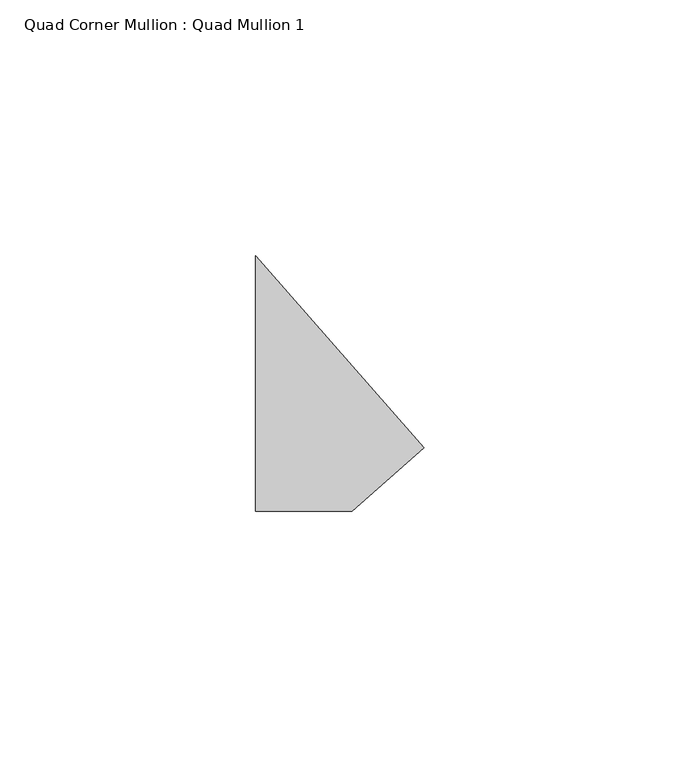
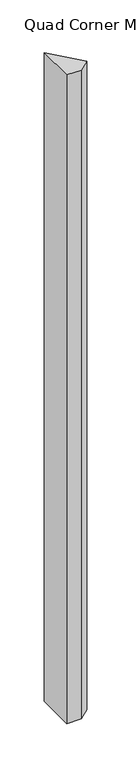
"""IFC4 building model written with IfcOpenShell, lengths in millimetres: member geometry, Quad Corner Mullion : Quad Mullion 1."""

from ifc_helpers import new_model, si_unit, frame, origin, place, context, project, spatial, polyline, outline, extrude, source, transform, mapped, element, save


def quad_corner_mullion_quad_mullion_1_9da00ed2(model_context):
    return source(origin(), model_context, "Body", "SweptSolid", [
        extrude(outline(polyline([(23.5710612, -12.5734516), (9.417357, -25.0), (-9.417357, -25.0), (-9.417357, 25.0), (23.5710612, -12.5734516)])), frame((0.0, 0.0, -890.0), z_axis=(0.0, 0.0, 1.0), x_axis=(1.0, 0.0, 0.0)), (0.0, 0.0, 1.0), 890.0),
    ])


if __name__ == "__main__":
    model = new_model("IFC4")
    model_context = context("Model", 3, world=origin())
    ifc_project = project(units=[si_unit("LENGTHUNIT", "METRE", prefix="MILLI")], contexts=[model_context])
    site = spatial("IfcSite", under=ifc_project)
    building = spatial("IfcBuilding", under=site)
    placement = place(None, origin())
    quad_corner_mullion_quad_mullion_1_shape = quad_corner_mullion_quad_mullion_1_9da00ed2(model_context)
    element("IfcMember", 1, ObjectType="Quad Corner Mullion : Quad Mullion 1", at=placement, inside=building, context=model_context, shape_type="MappedRepresentation", body=[
        mapped(quad_corner_mullion_quad_mullion_1_shape, transform((0.0, 0.0, 0.0), x_axis=(1.0, 0.0, 0.0), y_axis=(0.0, 1.0, 0.0), z_axis=(0.0, 0.0, 1.0))),
    ])
    save(model, "model.ifc")
